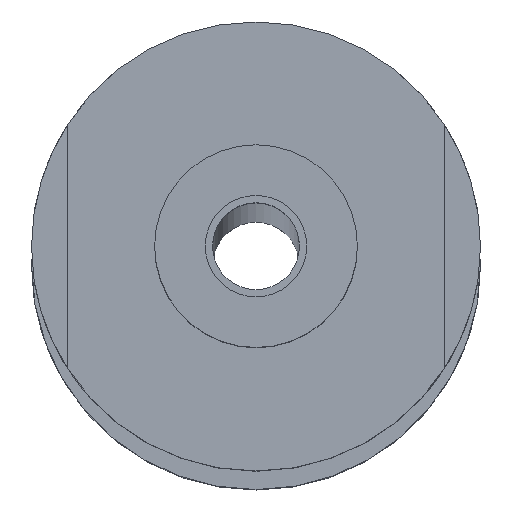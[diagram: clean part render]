
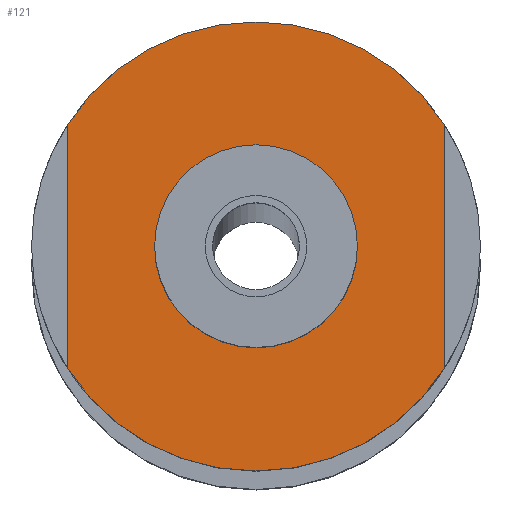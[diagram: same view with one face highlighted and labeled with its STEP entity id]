
A CAD part, top view. The second image highlights one B-rep face of the part: STEP entity #121.
In plain terms, the highlighted planar face has unit normal (0, 0, 1).
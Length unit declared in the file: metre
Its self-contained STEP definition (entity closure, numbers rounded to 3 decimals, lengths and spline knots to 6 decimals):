
#121=ADVANCED_FACE('37:1511',(#238,#239),#240,.T.);
#238=FACE_OUTER_BOUND('',#364,.T.);
#239=FACE_BOUND('',#365,.T.);
#240=PLANE('',#366);
#364=EDGE_LOOP('',(#596,#597,#598,#599,#600,#601));
#365=EDGE_LOOP('',(#602,#603));
#366=AXIS2_PLACEMENT_3D('',#604,#605,#606);
#596=ORIENTED_EDGE('',*,*,#761,.F.);
#597=ORIENTED_EDGE('',*,*,#760,.F.);
#598=ORIENTED_EDGE('',*,*,#756,.F.);
#599=ORIENTED_EDGE('',*,*,#688,.F.);
#600=ORIENTED_EDGE('',*,*,#687,.F.);
#601=ORIENTED_EDGE('',*,*,#751,.T.);
#602=ORIENTED_EDGE('',*,*,#749,.F.);
#603=ORIENTED_EDGE('',*,*,#693,.F.);
#604=CARTESIAN_POINT('',(0.0,0.0,3.115));
#605=DIRECTION('',(0.0,0.0,1.0));
#606=DIRECTION('',(1.0,0.0,0.0));
#687=EDGE_CURVE('37:1561',#812,#814,#815,.F.);
#688=EDGE_CURVE('37:1552',#814,#816,#817,.F.);
#693=EDGE_CURVE('',#822,#825,#826,.T.);
#749=EDGE_CURVE('37:1539',#825,#822,#907,.T.);
#751=EDGE_CURVE('37:3142',#812,#909,#910,.T.);
#756=EDGE_CURVE('37:2641',#816,#917,#918,.F.);
#760=EDGE_CURVE('37:1558',#917,#922,#923,.F.);
#761=EDGE_CURVE('37:1549',#922,#909,#924,.F.);
#812=VERTEX_POINT('',#1001);
#814=VERTEX_POINT('',#1004);
#815=CIRCLE('',#1005,0.0155);
#816=VERTEX_POINT('',#1006);
#817=CIRCLE('',#1007,0.0155);
#822=VERTEX_POINT('',#1013);
#825=VERTEX_POINT('',#1017);
#826=CIRCLE('',#1018,0.007);
#907=CIRCLE('',#1116,0.007);
#909=VERTEX_POINT('',#1118);
#910=LINE('',#1119,#1120);
#917=VERTEX_POINT('',#1130);
#918=LINE('',#1131,#1132);
#922=VERTEX_POINT('',#1137);
#923=CIRCLE('',#1138,0.0155);
#924=CIRCLE('',#1139,0.0155);
#1001=CARTESIAN_POINT('',(-0.013092,0.008536,3.115));
#1004=CARTESIAN_POINT('',(-0.000092,0.015595,3.115));
#1005=AXIS2_PLACEMENT_3D('',#1221,#1222,#1223);
#1006=CARTESIAN_POINT('',(0.012908,0.008536,3.115));
#1007=AXIS2_PLACEMENT_3D('',#1224,#1225,#1226);
#1013=CARTESIAN_POINT('',(0.006908,0.000095,3.115));
#1017=CARTESIAN_POINT('',(-0.007092,0.000095,3.115));
#1018=AXIS2_PLACEMENT_3D('',#1232,#1233,#1234);
#1116=AXIS2_PLACEMENT_3D('',#1318,#1319,#1320);
#1118=CARTESIAN_POINT('',(-0.013092,-0.008346,3.115));
#1119=CARTESIAN_POINT('',(-0.013092,0.000048,3.115));
#1120=VECTOR('',#1321,1.0);
#1130=CARTESIAN_POINT('',(0.012908,-0.008346,3.115));
#1131=CARTESIAN_POINT('',(0.012908,0.000048,3.115));
#1132=VECTOR('',#1325,1.0);
#1137=CARTESIAN_POINT('',(-0.000092,-0.015405,3.115));
#1138=AXIS2_PLACEMENT_3D('',#1330,#1331,#1332);
#1139=AXIS2_PLACEMENT_3D('',#1333,#1334,#1335);
#1221=CARTESIAN_POINT('',(-0.000092,0.000095,3.115));
#1222=DIRECTION('',(0.0,0.0,1.0));
#1223=DIRECTION('',(1.0,0.0,0.0));
#1224=CARTESIAN_POINT('',(-0.000092,0.000095,3.115));
#1225=DIRECTION('',(0.0,0.0,1.0));
#1226=DIRECTION('',(1.0,0.0,0.0));
#1232=CARTESIAN_POINT('',(-0.000092,0.000095,3.115));
#1233=DIRECTION('',(0.0,0.0,1.0));
#1234=DIRECTION('',(1.0,0.0,-0.0));
#1318=CARTESIAN_POINT('',(-0.000092,0.000095,3.115));
#1319=DIRECTION('',(0.0,0.0,1.0));
#1320=DIRECTION('',(1.0,0.0,-0.0));
#1321=DIRECTION('',(0.,-1.0,0.0));
#1325=DIRECTION('',(0.,1.0,0.0));
#1330=CARTESIAN_POINT('',(-0.000092,0.000095,3.115));
#1331=DIRECTION('',(0.0,0.0,1.0));
#1332=DIRECTION('',(1.0,0.0,0.0));
#1333=CARTESIAN_POINT('',(-0.000092,0.000095,3.115));
#1334=DIRECTION('',(0.0,0.0,1.0));
#1335=DIRECTION('',(1.0,0.0,0.0));
